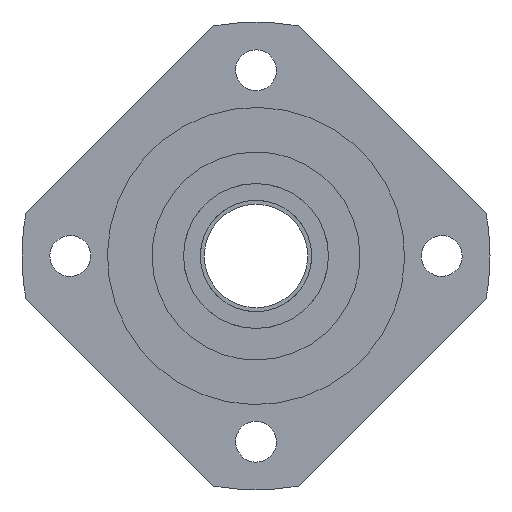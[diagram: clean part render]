
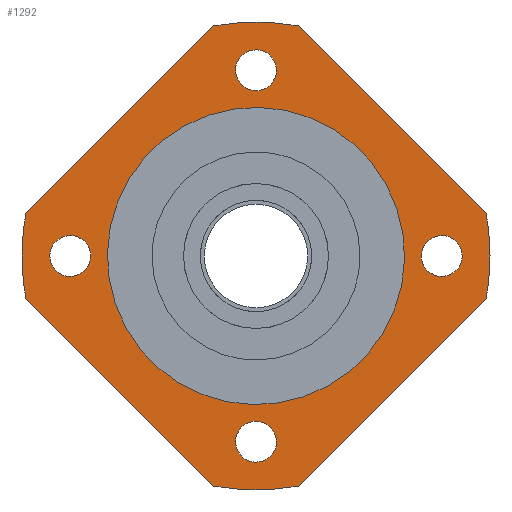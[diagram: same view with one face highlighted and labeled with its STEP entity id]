
A CAD part, left-side view. The second image highlights one B-rep face of the part: STEP entity #1292.
In plain terms, the highlighted planar face has unit normal (-1, 0, 0).
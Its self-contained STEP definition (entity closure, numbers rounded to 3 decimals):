
#79=CARTESIAN_POINT('Vertex',(-15.,-5.81,-30.96)) ;
#82=CARTESIAN_POINT('Axis2P3D Location',(-15.,0.,0.)) ;
#86=CARTESIAN_POINT('Vertex',(-15.,5.81,-30.96)) ;
#112=CARTESIAN_POINT('Vertex',(-15.,-30.96,-5.81)) ;
#115=CARTESIAN_POINT('Line Origine',(-15.,-18.385,-18.385)) ;
#143=CARTESIAN_POINT('Vertex',(-15.,-31.5,0.)) ;
#146=CARTESIAN_POINT('Axis2P3D Location',(-15.,0.,0.)) ;
#169=CARTESIAN_POINT('Vertex',(-15.,-30.96,5.81)) ;
#172=CARTESIAN_POINT('Axis2P3D Location',(-15.,0.,0.)) ;
#195=CARTESIAN_POINT('Vertex',(-15.,-5.81,30.96)) ;
#198=CARTESIAN_POINT('Line Origine',(-15.,-18.385,18.385)) ;
#226=CARTESIAN_POINT('Vertex',(-15.,5.81,30.96)) ;
#229=CARTESIAN_POINT('Axis2P3D Location',(-15.,0.,0.)) ;
#252=CARTESIAN_POINT('Vertex',(-15.,30.96,5.81)) ;
#255=CARTESIAN_POINT('Line Origine',(-15.,18.385,18.385)) ;
#283=CARTESIAN_POINT('Vertex',(-15.,31.5,0.)) ;
#286=CARTESIAN_POINT('Axis2P3D Location',(-15.,0.,0.)) ;
#309=CARTESIAN_POINT('Vertex',(-15.,30.96,-5.81)) ;
#312=CARTESIAN_POINT('Axis2P3D Location',(-15.,0.,0.)) ;
#808=CARTESIAN_POINT('Axis2P3D Location',(-15.,-25.,0.)) ;
#812=CARTESIAN_POINT('Vertex',(-15.,-26.318,-2.413)) ;
#814=CARTESIAN_POINT('Vertex',(-15.,-23.682,2.413)) ;
#834=CARTESIAN_POINT('Axis2P3D Location',(-15.,-25.,0.)) ;
#851=CARTESIAN_POINT('Axis2P3D Location',(-15.,0.,-25.)) ;
#855=CARTESIAN_POINT('Vertex',(-15.,2.413,-26.318)) ;
#857=CARTESIAN_POINT('Vertex',(-15.,-2.413,-23.682)) ;
#877=CARTESIAN_POINT('Axis2P3D Location',(-15.,0.,-25.)) ;
#894=CARTESIAN_POINT('Axis2P3D Location',(-15.,25.,0.)) ;
#898=CARTESIAN_POINT('Vertex',(-15.,26.318,2.413)) ;
#900=CARTESIAN_POINT('Vertex',(-15.,23.682,-2.413)) ;
#920=CARTESIAN_POINT('Axis2P3D Location',(-15.,25.,0.)) ;
#941=CARTESIAN_POINT('Vertex',(-15.,-9.589,-17.552)) ;
#944=CARTESIAN_POINT('Axis2P3D Location',(-15.,0.,0.)) ;
#948=CARTESIAN_POINT('Vertex',(-15.,9.589,17.552)) ;
#963=CARTESIAN_POINT('Axis2P3D Location',(-15.,0.,0.)) ;
#980=CARTESIAN_POINT('Axis2P3D Location',(-15.,0.,25.)) ;
#984=CARTESIAN_POINT('Vertex',(-15.,-2.413,26.318)) ;
#986=CARTESIAN_POINT('Vertex',(-15.,2.413,23.682)) ;
#1006=CARTESIAN_POINT('Axis2P3D Location',(-15.,0.,25.)) ;
#1238=CARTESIAN_POINT('Line Origine',(-15.,18.385,-18.385)) ;
#1255=CARTESIAN_POINT('Axis2P3D Location',(-15.,0.,82.621)) ;
#83=DIRECTION('Axis2P3D Direction',(1.,0.,0.)) ;
#116=DIRECTION('Vector Direction',(0.,-0.707,0.707)) ;
#147=DIRECTION('Axis2P3D Direction',(1.,0.,0.)) ;
#173=DIRECTION('Axis2P3D Direction',(1.,0.,0.)) ;
#199=DIRECTION('Vector Direction',(0.,0.707,0.707)) ;
#230=DIRECTION('Axis2P3D Direction',(1.,0.,0.)) ;
#256=DIRECTION('Vector Direction',(0.,0.707,-0.707)) ;
#287=DIRECTION('Axis2P3D Direction',(1.,0.,0.)) ;
#313=DIRECTION('Axis2P3D Direction',(1.,0.,0.)) ;
#809=DIRECTION('Axis2P3D Direction',(-1.,0.,0.)) ;
#835=DIRECTION('Axis2P3D Direction',(-1.,0.,0.)) ;
#852=DIRECTION('Axis2P3D Direction',(-1.,-0.,0.)) ;
#878=DIRECTION('Axis2P3D Direction',(-1.,-0.,0.)) ;
#895=DIRECTION('Axis2P3D Direction',(-1.,0.,-0.)) ;
#921=DIRECTION('Axis2P3D Direction',(-1.,0.,-0.)) ;
#945=DIRECTION('Axis2P3D Direction',(-1.,0.,0.)) ;
#964=DIRECTION('Axis2P3D Direction',(-1.,0.,0.)) ;
#981=DIRECTION('Axis2P3D Direction',(-1.,0.,-0.)) ;
#1007=DIRECTION('Axis2P3D Direction',(-1.,0.,-0.)) ;
#1239=DIRECTION('Vector Direction',(0.,-0.707,-0.707)) ;
#1256=DIRECTION('Axis2P3D Direction',(-1.,0.,0.)) ;
#1257=DIRECTION('Axis2P3D XDirection',(0.,1.,0.)) ;
#84=AXIS2_PLACEMENT_3D('Circle Axis2P3D',#82,#83,$) ;
#148=AXIS2_PLACEMENT_3D('Circle Axis2P3D',#146,#147,$) ;
#174=AXIS2_PLACEMENT_3D('Circle Axis2P3D',#172,#173,$) ;
#231=AXIS2_PLACEMENT_3D('Circle Axis2P3D',#229,#230,$) ;
#288=AXIS2_PLACEMENT_3D('Circle Axis2P3D',#286,#287,$) ;
#314=AXIS2_PLACEMENT_3D('Circle Axis2P3D',#312,#313,$) ;
#810=AXIS2_PLACEMENT_3D('Circle Axis2P3D',#808,#809,$) ;
#836=AXIS2_PLACEMENT_3D('Circle Axis2P3D',#834,#835,$) ;
#853=AXIS2_PLACEMENT_3D('Circle Axis2P3D',#851,#852,$) ;
#879=AXIS2_PLACEMENT_3D('Circle Axis2P3D',#877,#878,$) ;
#896=AXIS2_PLACEMENT_3D('Circle Axis2P3D',#894,#895,$) ;
#922=AXIS2_PLACEMENT_3D('Circle Axis2P3D',#920,#921,$) ;
#946=AXIS2_PLACEMENT_3D('Circle Axis2P3D',#944,#945,$) ;
#965=AXIS2_PLACEMENT_3D('Circle Axis2P3D',#963,#964,$) ;
#982=AXIS2_PLACEMENT_3D('Circle Axis2P3D',#980,#981,$) ;
#1008=AXIS2_PLACEMENT_3D('Circle Axis2P3D',#1006,#1007,$) ;
#1258=AXIS2_PLACEMENT_3D('Plane Axis2P3D',#1255,#1256,#1257) ;
#1261=ORIENTED_EDGE('',*,*,#88,.T.) ;
#1262=ORIENTED_EDGE('',*,*,#119,.T.) ;
#1263=ORIENTED_EDGE('',*,*,#150,.T.) ;
#1264=ORIENTED_EDGE('',*,*,#176,.T.) ;
#1265=ORIENTED_EDGE('',*,*,#202,.T.) ;
#1266=ORIENTED_EDGE('',*,*,#233,.T.) ;
#1267=ORIENTED_EDGE('',*,*,#259,.T.) ;
#1268=ORIENTED_EDGE('',*,*,#290,.T.) ;
#1269=ORIENTED_EDGE('',*,*,#316,.T.) ;
#1270=ORIENTED_EDGE('',*,*,#1242,.T.) ;
#1273=ORIENTED_EDGE('',*,*,#1010,.F.) ;
#1274=ORIENTED_EDGE('',*,*,#988,.F.) ;
#1277=ORIENTED_EDGE('',*,*,#967,.F.) ;
#1278=ORIENTED_EDGE('',*,*,#950,.F.) ;
#1281=ORIENTED_EDGE('',*,*,#924,.F.) ;
#1282=ORIENTED_EDGE('',*,*,#902,.F.) ;
#1285=ORIENTED_EDGE('',*,*,#881,.F.) ;
#1286=ORIENTED_EDGE('',*,*,#859,.F.) ;
#1289=ORIENTED_EDGE('',*,*,#838,.F.) ;
#1290=ORIENTED_EDGE('',*,*,#816,.F.) ;
#1275=FACE_BOUND('',#1272,.T.) ;
#1279=FACE_BOUND('',#1276,.T.) ;
#1283=FACE_BOUND('',#1280,.T.) ;
#1287=FACE_BOUND('',#1284,.T.) ;
#1291=FACE_BOUND('',#1288,.T.) ;
#117=VECTOR('Line Direction',#116,1.) ;
#200=VECTOR('Line Direction',#199,1.) ;
#257=VECTOR('Line Direction',#256,1.) ;
#1240=VECTOR('Line Direction',#1239,1.) ;
#1292=ADVANCED_FACE('FK15(H)',(#1271,#1275,#1279,#1283,#1287,#1291),#1259,.T.) ;
#85=CIRCLE('generated circle',#84,31.5) ;
#149=CIRCLE('generated circle',#148,31.5) ;
#175=CIRCLE('generated circle',#174,31.5) ;
#232=CIRCLE('generated circle',#231,31.5) ;
#289=CIRCLE('generated circle',#288,31.5) ;
#315=CIRCLE('generated circle',#314,31.5) ;
#811=CIRCLE('generated circle',#810,2.75) ;
#837=CIRCLE('generated circle',#836,2.75) ;
#854=CIRCLE('generated circle',#853,2.75) ;
#880=CIRCLE('generated circle',#879,2.75) ;
#897=CIRCLE('generated circle',#896,2.75) ;
#923=CIRCLE('generated circle',#922,2.75) ;
#947=CIRCLE('generated circle',#946,20.) ;
#966=CIRCLE('generated circle',#965,20.) ;
#983=CIRCLE('generated circle',#982,2.75) ;
#1009=CIRCLE('generated circle',#1008,2.75) ;
#88=EDGE_CURVE('',#87,#80,#85,.F.) ;
#119=EDGE_CURVE('',#80,#113,#118,.T.) ;
#150=EDGE_CURVE('',#113,#144,#149,.F.) ;
#176=EDGE_CURVE('',#144,#170,#175,.F.) ;
#202=EDGE_CURVE('',#170,#196,#201,.T.) ;
#233=EDGE_CURVE('',#196,#227,#232,.F.) ;
#259=EDGE_CURVE('',#227,#253,#258,.T.) ;
#290=EDGE_CURVE('',#253,#284,#289,.F.) ;
#316=EDGE_CURVE('',#284,#310,#315,.F.) ;
#816=EDGE_CURVE('',#813,#815,#811,.T.) ;
#838=EDGE_CURVE('',#815,#813,#837,.T.) ;
#859=EDGE_CURVE('',#856,#858,#854,.T.) ;
#881=EDGE_CURVE('',#858,#856,#880,.T.) ;
#902=EDGE_CURVE('',#899,#901,#897,.T.) ;
#924=EDGE_CURVE('',#901,#899,#923,.T.) ;
#950=EDGE_CURVE('',#942,#949,#947,.T.) ;
#967=EDGE_CURVE('',#949,#942,#966,.T.) ;
#988=EDGE_CURVE('',#985,#987,#983,.T.) ;
#1010=EDGE_CURVE('',#987,#985,#1009,.T.) ;
#1242=EDGE_CURVE('',#310,#87,#1241,.T.) ;
#1260=EDGE_LOOP('',(#1261,#1262,#1263,#1264,#1265,#1266,#1267,#1268,#1269,#1270)) ;
#1272=EDGE_LOOP('',(#1273,#1274)) ;
#1276=EDGE_LOOP('',(#1277,#1278)) ;
#1280=EDGE_LOOP('',(#1281,#1282)) ;
#1284=EDGE_LOOP('',(#1285,#1286)) ;
#1288=EDGE_LOOP('',(#1289,#1290)) ;
#1271=FACE_OUTER_BOUND('',#1260,.T.) ;
#118=LINE('Line',#115,#117) ;
#201=LINE('Line',#198,#200) ;
#258=LINE('Line',#255,#257) ;
#1241=LINE('Line',#1238,#1240) ;
#1259=PLANE('Plane',#1258) ;
#80=VERTEX_POINT('',#79) ;
#87=VERTEX_POINT('',#86) ;
#113=VERTEX_POINT('',#112) ;
#144=VERTEX_POINT('',#143) ;
#170=VERTEX_POINT('',#169) ;
#196=VERTEX_POINT('',#195) ;
#227=VERTEX_POINT('',#226) ;
#253=VERTEX_POINT('',#252) ;
#284=VERTEX_POINT('',#283) ;
#310=VERTEX_POINT('',#309) ;
#813=VERTEX_POINT('',#812) ;
#815=VERTEX_POINT('',#814) ;
#856=VERTEX_POINT('',#855) ;
#858=VERTEX_POINT('',#857) ;
#899=VERTEX_POINT('',#898) ;
#901=VERTEX_POINT('',#900) ;
#942=VERTEX_POINT('',#941) ;
#949=VERTEX_POINT('',#948) ;
#985=VERTEX_POINT('',#984) ;
#987=VERTEX_POINT('',#986) ;
